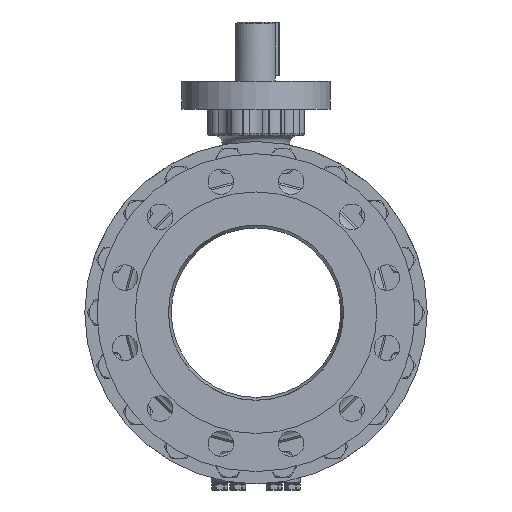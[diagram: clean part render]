
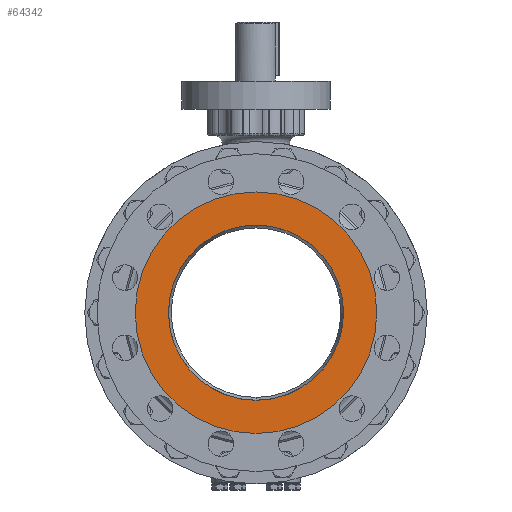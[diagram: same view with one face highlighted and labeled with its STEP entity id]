
A CAD part, left-side view. The second image highlights one B-rep face of the part: STEP entity #64342.
In plain terms, the highlighted planar face has unit normal (-1, 0, 0).
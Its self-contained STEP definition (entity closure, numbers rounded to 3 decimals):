
#2961=CARTESIAN_POINT('',(-251.,0.,0.));
#2962=DIRECTION('',(1.,0.,0.));
#2963=DIRECTION('',(0.,0.,1.));
#2964=AXIS2_PLACEMENT_3D('',#2961,#2962,#2963);
#2966=CARTESIAN_POINT('',(-251.,0.,0.));
#2967=DIRECTION('',(1.,0.,0.));
#2968=DIRECTION('',(0.,0.,-1.));
#2969=AXIS2_PLACEMENT_3D('',#2966,#2967,#2968);
#2971=CARTESIAN_POINT('',(-251.,0.,0.));
#2972=DIRECTION('',(1.,0.,0.));
#2973=DIRECTION('',(0.,0.,1.));
#2974=AXIS2_PLACEMENT_3D('',#2971,#2972,#2973);
#2976=CARTESIAN_POINT('',(-251.,0.,0.));
#2977=DIRECTION('',(-1.,0.,0.));
#2978=DIRECTION('',(0.,0.,1.));
#2979=AXIS2_PLACEMENT_3D('',#2976,#2977,#2978);
#54563=CARTESIAN_POINT('',(-251.,0.,103.35));
#54565=VERTEX_POINT('',#54563);
#54567=CARTESIAN_POINT('',(-251.,0.,-103.35));
#54569=VERTEX_POINT('',#54567);
#54598=CARTESIAN_POINT('',(-251.,0.,142.5));
#54599=CARTESIAN_POINT('',(-251.,0.,-142.5));
#54600=VERTEX_POINT('',#54598);
#54601=VERTEX_POINT('',#54599);
#64326=CARTESIAN_POINT('',(-251.,0.,0.));
#64327=DIRECTION('',(-1.,0.,0.));
#64328=DIRECTION('',(0.,0.,-1.));
#64329=AXIS2_PLACEMENT_3D('',#64326,#64327,#64328);
#64330=PLANE('',#64329);
#64332=ORIENTED_EDGE('',*,*,#64331,.T.);
#64333=ORIENTED_EDGE('',*,*,#64316,.T.);
#64334=EDGE_LOOP('',(#64332,#64333));
#64335=FACE_OUTER_BOUND('',#64334,.F.);
#64337=ORIENTED_EDGE('',*,*,#64336,.F.);
#64339=ORIENTED_EDGE('',*,*,#64338,.T.);
#64340=EDGE_LOOP('',(#64337,#64339));
#64341=FACE_BOUND('',#64340,.F.);
#64342=ADVANCED_FACE('',(#64335,#64341),#64330,.T.);
#2965=CIRCLE('',#2964,142.5);
#2970=CIRCLE('',#2969,142.5);
#2975=CIRCLE('',#2974,103.35);
#2980=CIRCLE('',#2979,103.35);
#64316=EDGE_CURVE('',#54601,#54600,#2970,.T.);
#64331=EDGE_CURVE('',#54600,#54601,#2965,.T.);
#64336=EDGE_CURVE('',#54565,#54569,#2975,.T.);
#64338=EDGE_CURVE('',#54565,#54569,#2980,.T.);
